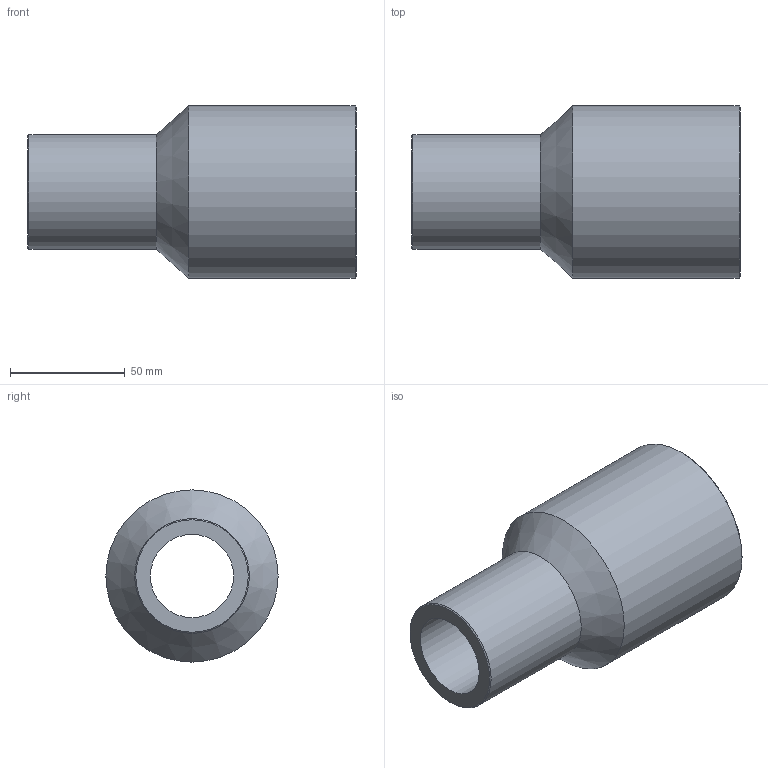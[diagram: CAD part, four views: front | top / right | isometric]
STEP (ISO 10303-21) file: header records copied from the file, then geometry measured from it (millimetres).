
FILE_DESCRIPTION(/* description */ ('Unknown'),/* implementation_level */ '2;1');
FILE_NAME(/* name */ 'RP075050H',/* time_stamp */ '2021-09-16T11:33:43+02:00',/* author */ ('Unknown'),/* organization */ ('Unknown'),/* preprocessor_version */ 'ST-DEVELOPER v16.7',/* originating_system */ 'Solid Edge',/* authorisation */ 'Unknown');
FILE_SCHEMA (('AUTOMOTIVE_DESIGN {1 0 10303 214 3 1 1}'));
Length unit declared in the file: millimetre
Products named in the file (1): RP075050H
Bounding box: 143 x 75 x 75 mm (x, y, z)
Volume: 230422.2 mm3; surface area: 53555.7 mm2
Topology: 1 solids, 1 shells, 10 faces, 19 edges, 11 vertices
Faces by surface type: cylinder 4, cone 4, plane 2
Full cylindrical faces by diameter (mm): 36.2 x1, 50 x1, 54.4 x1, 75 x1
Entity records: 238 total; most frequent: DIRECTION 42, CARTESIAN_POINT 31, AXIS2_PLACEMENT_3D 21, ORIENTED_EDGE 20, EDGE_LOOP 20, FACE_BOUND 20, EDGE_CURVE 10, VERTEX_POINT 10
